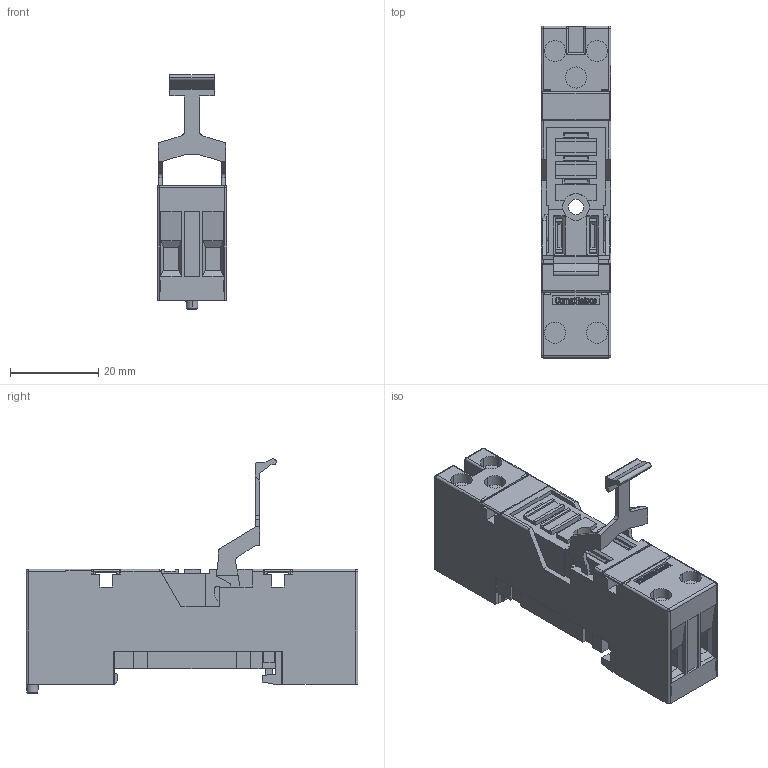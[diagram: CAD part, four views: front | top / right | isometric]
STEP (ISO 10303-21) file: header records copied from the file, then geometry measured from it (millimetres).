
FILE_DESCRIPTION (( 'STEP AP214' ), '1' );
FILE_NAME ('S10-GR.STEP', '2024-04-11T06:26:12', ( '' ), ( '' ), 'SwSTEP 2.0', 'SolidWorks 2022', '' );
FILE_SCHEMA (( 'AUTOMOTIVE_DESIGN' ));
Length unit declared in the file: millimetre
Products named in the file (1): S10-GR
Bounding box: 15.8 x 75 x 53 mm (x, y, z)
Volume: 24265.4 mm3; surface area: 13785.4 mm2
Topology: 1 solids, 13 shells, 1020 faces, 2786 edges, 1794 vertices
Faces by surface type: plane 799, cylinder 117, bspline 84, sphere 14, cone 4, torus 2
Entity records: 39753 total; most frequent: CARTESIAN_POINT 10233, ORIENTED_EDGE 5544, DIRECTION 4690, EDGE_CURVE 2772, LINE 2340, VECTOR 2340, VERTEX_POINT 1794, AXIS2_PLACEMENT_3D 1175
